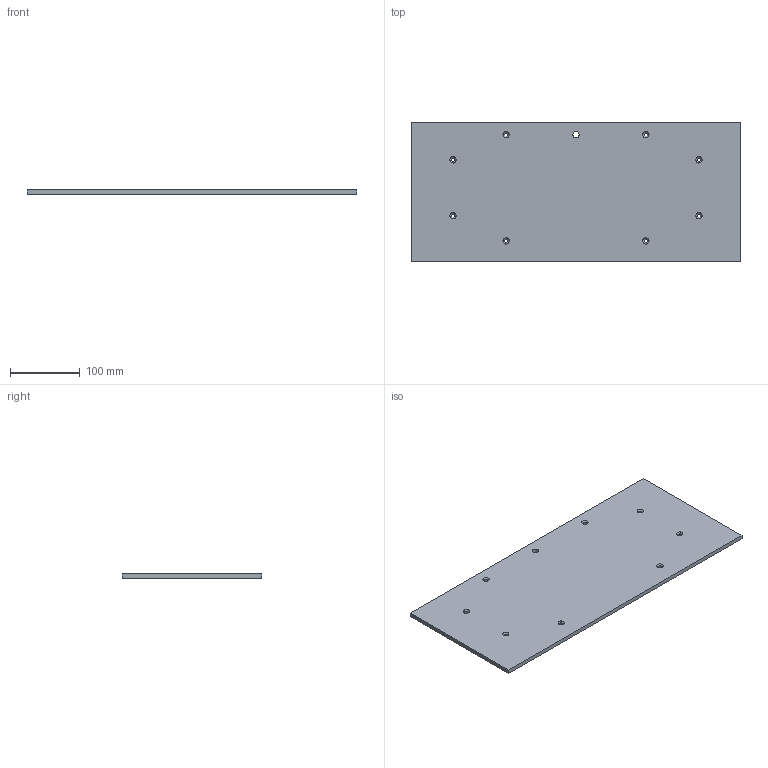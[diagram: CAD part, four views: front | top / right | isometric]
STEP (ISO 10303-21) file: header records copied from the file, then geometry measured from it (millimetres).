
FILE_DESCRIPTION (( 'STEP AP203' ), '1' );
FILE_NAME ('Planche_Derrière_Grande.STEP', '2026-06-24T07:29:49', ( '' ), ( '' ), 'SwSTEP 2.0', 'SolidWorks 2024', '' );
FILE_SCHEMA (( 'CONFIG_CONTROL_DESIGN' ));
Length unit declared in the file: millimetre
Products named in the file (1): Planche_Derrière_Grande
Bounding box: 472 x 200 x 6 mm (x, y, z)
Volume: 564757.5 mm3; surface area: 197240.7 mm2
Topology: 1 solids, 1 shells, 23 faces, 63 edges, 42 vertices
Faces by surface type: cylinder 9, cone 8, plane 6
Full cylindrical faces by diameter (mm): 5 x8, 9 x1
Entity records: 697 total; most frequent: DIRECTION 112, CARTESIAN_POINT 96, ORIENTED_EDGE 76, EDGE_LOOP 58, AXIS2_PLACEMENT_3D 50, EDGE_CURVE 38, VERTEX_POINT 34, FACE_OUTER_BOUND 32
